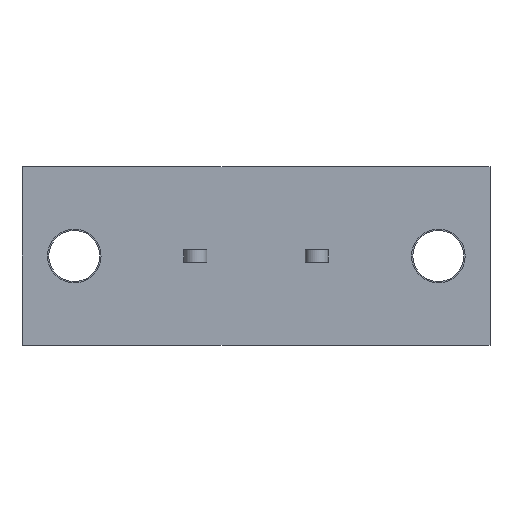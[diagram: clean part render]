
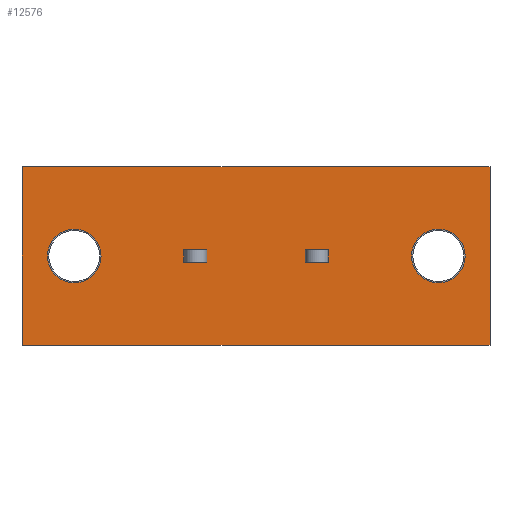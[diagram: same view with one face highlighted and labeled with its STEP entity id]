
A CAD part, front view. The second image highlights one B-rep face of the part: STEP entity #12576.
In plain terms, the highlighted planar face has unit normal (0, -1, 0).
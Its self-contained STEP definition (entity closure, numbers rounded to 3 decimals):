
#745=VECTOR('',#14164,1.);
#748=VECTOR('',#14170,1.);
#764=VECTOR('',#14203,1.);
#767=VECTOR('',#14211,1.);
#857=VECTOR('',#14414,1.);
#1413=VECTOR('',#15314,1.);
#1423=VECTOR('',#15338,1.);
#1424=VECTOR('',#15340,1.);
#1425=VECTOR('',#15341,1.);
#1426=VECTOR('',#15342,1.);
#1427=VECTOR('',#15343,1.);
#1428=VECTOR('',#15344,1.);
#2129=LINE('',#16816,#745);
#2132=LINE('',#16825,#748);
#2148=LINE('',#16864,#764);
#2151=LINE('',#16872,#767);
#2241=LINE('',#17119,#857);
#2797=LINE('',#19039,#1413);
#2807=LINE('',#19063,#1423);
#2808=LINE('',#19065,#1424);
#2809=LINE('',#19068,#1425);
#2810=LINE('',#19070,#1426);
#2811=LINE('',#19072,#1427);
#2812=LINE('',#19073,#1428);
#3546=PLANE('',#13377);
#3800=CIRCLE('',#13121,2.1);
#3856=CIRCLE('',#13370,2.1);
#4151=VERTEX_POINT('',#16817);
#4152=VERTEX_POINT('',#16818);
#4155=VERTEX_POINT('',#16826);
#4167=VERTEX_POINT('',#16865);
#4252=VERTEX_POINT('',#17118);
#4253=VERTEX_POINT('',#17120);
#4258=VERTEX_POINT('',#17151);
#4733=VERTEX_POINT('',#19038);
#4734=VERTEX_POINT('',#19040);
#4738=VERTEX_POINT('',#19050);
#4739=VERTEX_POINT('',#19066);
#4740=VERTEX_POINT('',#19067);
#4741=VERTEX_POINT('',#19069);
#4742=VERTEX_POINT('',#19071);
#5530=EDGE_CURVE('',#4151,#4152,#2129,.T.);
#5534=EDGE_CURVE('',#4152,#4155,#2132,.T.);
#5558=EDGE_CURVE('',#4155,#4167,#2148,.T.);
#5562=EDGE_CURVE('',#4167,#4151,#2151,.T.);
#5681=EDGE_CURVE('',#4253,#4252,#2241,.T.);
#5697=EDGE_CURVE('',#4258,#4258,#3800,.T.);
#6398=EDGE_CURVE('',#4734,#4733,#2797,.T.);
#6403=EDGE_CURVE('',#4738,#4738,#3856,.T.);
#6410=EDGE_CURVE('',#4733,#4253,#2807,.T.);
#6411=EDGE_CURVE('',#4739,#4740,#2808,.T.);
#6412=EDGE_CURVE('',#4741,#4739,#2809,.T.);
#6413=EDGE_CURVE('',#4742,#4741,#2810,.T.);
#6414=EDGE_CURVE('',#4740,#4742,#2811,.T.);
#6415=EDGE_CURVE('',#4734,#4252,#2812,.T.);
#9475=ORIENTED_EDGE('',*,*,#5558,.F.);
#9476=ORIENTED_EDGE('',*,*,#5534,.F.);
#9477=ORIENTED_EDGE('',*,*,#5530,.F.);
#9478=ORIENTED_EDGE('',*,*,#5562,.F.);
#9479=ORIENTED_EDGE('',*,*,#5697,.T.);
#9480=ORIENTED_EDGE('',*,*,#6411,.F.);
#9481=ORIENTED_EDGE('',*,*,#6412,.F.);
#9482=ORIENTED_EDGE('',*,*,#6413,.F.);
#9483=ORIENTED_EDGE('',*,*,#6414,.F.);
#9484=ORIENTED_EDGE('',*,*,#6403,.T.);
#9485=ORIENTED_EDGE('',*,*,#6410,.T.);
#9486=ORIENTED_EDGE('',*,*,#5681,.T.);
#9487=ORIENTED_EDGE('',*,*,#6415,.F.);
#9488=ORIENTED_EDGE('',*,*,#6398,.T.);
#11122=EDGE_LOOP('',(#9475,#9476,#9477,#9478));
#11123=EDGE_LOOP('',(#9479));
#11124=EDGE_LOOP('',(#9480,#9481,#9482,#9483));
#11125=EDGE_LOOP('',(#9484));
#11126=EDGE_LOOP('',(#9485,#9486,#9487,#9488));
#11872=FACE_BOUND('',#11122,.T.);
#11873=FACE_BOUND('',#11123,.T.);
#11874=FACE_BOUND('',#11124,.T.);
#11875=FACE_BOUND('',#11125,.T.);
#11876=FACE_BOUND('',#11126,.T.);
#12576=ADVANCED_FACE('',(#11872,#11873,#11874,#11875,#11876),#3546,.T.);
#13121=AXIS2_PLACEMENT_3D('',#17150,#14447,#14448);
#13370=AXIS2_PLACEMENT_3D('',#19049,#15322,#15323);
#13377=AXIS2_PLACEMENT_3D('',#19064,#15339,$);
#14164=DIRECTION('',(-1.,0.,0.));
#14170=DIRECTION('',(0.,0.,-1.));
#14203=DIRECTION('',(1.,0.,0.));
#14211=DIRECTION('',(0.,0.,1.));
#14414=DIRECTION('',(0.,0.,1.));
#14447=DIRECTION('',(0.,1.,0.));
#14448=DIRECTION('',(2.1,0.,0.));
#15314=DIRECTION('',(0.,0.,-1.));
#15322=DIRECTION('',(0.,1.,0.));
#15323=DIRECTION('',(2.1,0.,0.));
#15338=DIRECTION('',(1.,0.,0.));
#15339=DIRECTION('',(0.,-1.,0.));
#15340=DIRECTION('',(1.,0.,0.));
#15341=DIRECTION('',(0.,0.,-1.));
#15342=DIRECTION('',(-1.,0.,0.));
#15343=DIRECTION('',(0.,0.,1.));
#15344=DIRECTION('',(1.,0.,0.));
#16816=CARTESIAN_POINT('',(21.075,0.,0.5));
#16817=CARTESIAN_POINT('',(24.,0.,0.5));
#16818=CARTESIAN_POINT('',(22.2,0.,0.5));
#16825=CARTESIAN_POINT('',(22.2,0.,-1.75));
#16826=CARTESIAN_POINT('',(22.2,0.,-0.5));
#16864=CARTESIAN_POINT('',(21.075,0.,-0.5));
#16865=CARTESIAN_POINT('',(24.,0.,-0.5));
#16872=CARTESIAN_POINT('',(24.,0.,-1.75));
#17118=CARTESIAN_POINT('',(36.7,0.,7.));
#17119=CARTESIAN_POINT('',(36.7,0.,7.));
#17120=CARTESIAN_POINT('',(36.7,0.,-7.));
#17150=CARTESIAN_POINT('',(32.65,0.,0.));
#17151=CARTESIAN_POINT('',(30.55,0.,0.));
#19038=CARTESIAN_POINT('',(0.,0.,-7.));
#19039=CARTESIAN_POINT('',(0.,0.,7.));
#19040=CARTESIAN_POINT('',(0.,0.,7.));
#19049=CARTESIAN_POINT('',(4.1,0.,0.));
#19050=CARTESIAN_POINT('',(2.,0.,0.));
#19063=CARTESIAN_POINT('',(0.,0.,-7.));
#19064=CARTESIAN_POINT('',(0.,0.,0.));
#19065=CARTESIAN_POINT('',(11.575,0.,-0.5));
#19066=CARTESIAN_POINT('',(12.7,0.,-0.5));
#19067=CARTESIAN_POINT('',(14.5,0.,-0.5));
#19068=CARTESIAN_POINT('',(12.7,0.,-1.75));
#19069=CARTESIAN_POINT('',(12.7,0.,0.5));
#19070=CARTESIAN_POINT('',(11.575,0.,0.5));
#19071=CARTESIAN_POINT('',(14.5,0.,0.5));
#19072=CARTESIAN_POINT('',(14.5,0.,-1.75));
#19073=CARTESIAN_POINT('',(0.,0.,7.));
